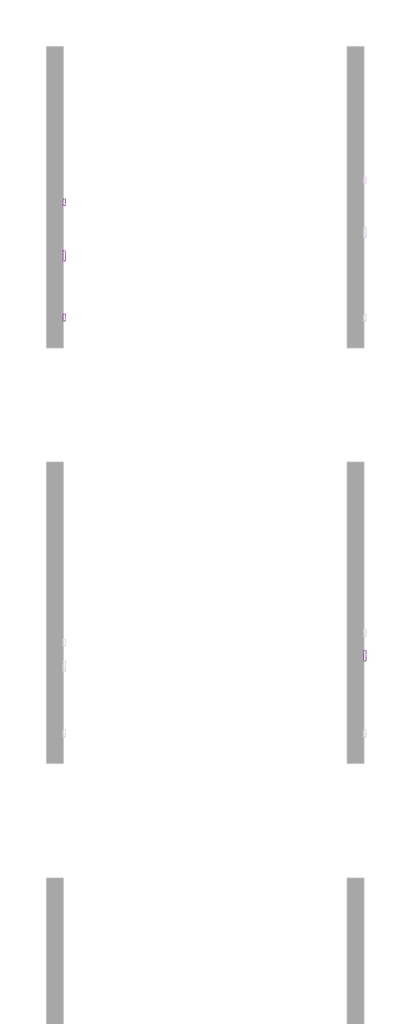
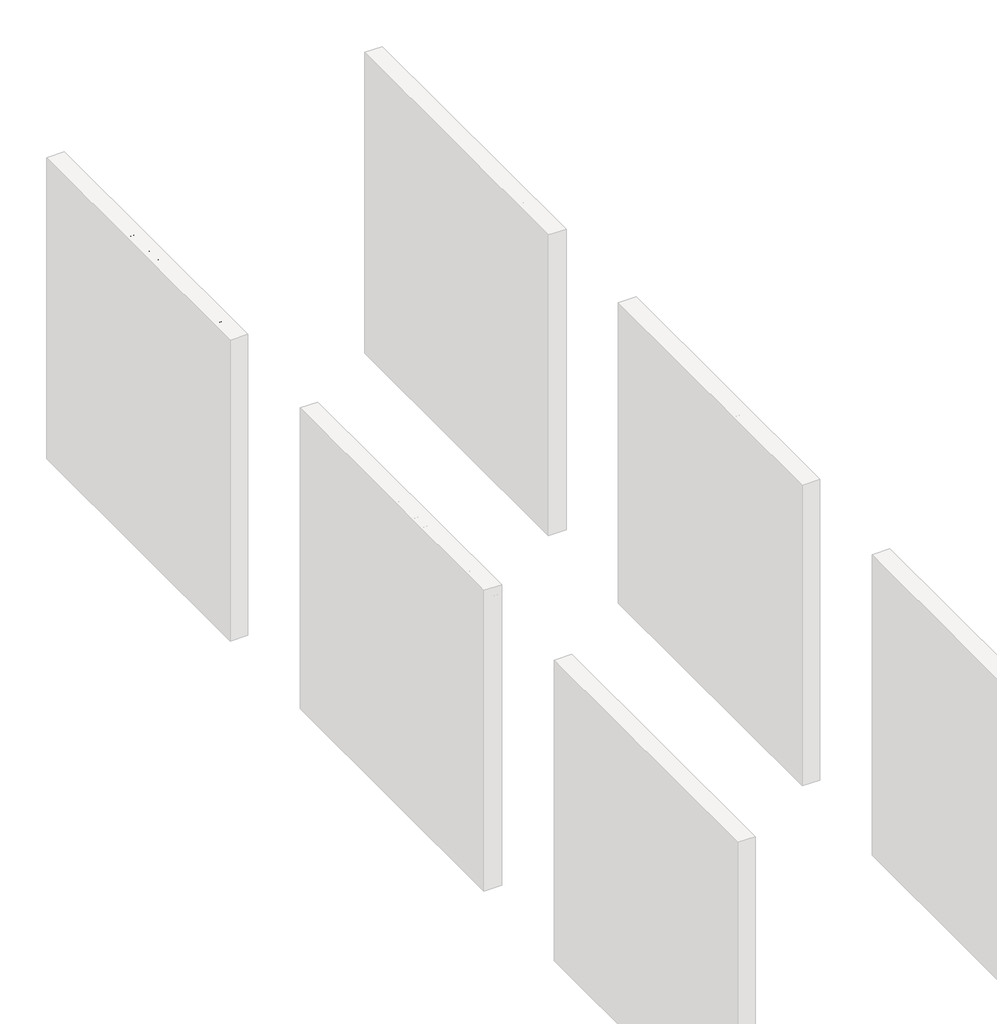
# One storey, part 14 of 17: 4 proxies.
"""IFC4 building model written with IfcOpenShell, lengths in millimetres."""

from ifc_helpers import new_model, si_unit, frame, origin, place, context, project, spatial, polyline, outline, extrude, element, save

model = new_model("IFC4")

# Units and contexts
model_context = context("Model", 3, world=origin())
ifc_project = project(units=[si_unit("LENGTHUNIT", "METRE", prefix="MILLI")], contexts=[model_context])

# Site, building, storey
site = spatial("IfcSite", under=ifc_project)
building = spatial("IfcBuilding", under=site)
storey = spatial("IfcBuildingStorey", under=building, Name="PORTOBELLO - SHOWROOM", Elevation=0.0)

# Proxies
placement = place(None, origin())
element("IfcBuildingElementProxy", 1, Name="10mm Arial", ObjectType="10mm Arial", at=placement, inside=storey, context=model_context, shape_type="SweptSolid", body=[
    extrude(outline(polyline([(9449.7242213, 2518.4745677), (9409.7722366, 2618.9308778), (9423.2121922, 2618.9308778), (9449.969476, 2546.5562266), (9455.389604, 2530.2467915), (9460.7361557, 2546.5562266), (9487.5670159, 2618.9308778), (9500.982446, 2618.9308778), (9462.6736675, 2518.4745677), (9449.7242213, 2518.4745677)])), frame((-7622.2794626, 0.0, 0.0), z_axis=(1.0, 0.0, 0.0), x_axis=(0.0, 1.0, 0.0)), (0.0, 0.0, 1.0), 20.0),
    extrude(outline(polyline([(9558.2003589, 2527.8923467), (9546.0234649, 2519.3820099), (9532.5712466, 2516.9049378), (9522.0774127, 2518.3948599), (9514.3365624, 2522.8646261), (9509.5632935, 2529.6520489), (9507.9722039, 2538.0949407), (9510.3756996, 2548.0277546), (9516.6910072, 2555.2382417), (9525.4833868, 2559.3585201), (9536.3481684, 2561.246981), (9558.1267825, 2565.563463), (9558.2003589, 2568.3593662), (9554.7422682, 2577.6299925), (9540.8608542, 2581.2597615), (9528.1566627, 2578.8440031), (9522.0988725, 2570.2723526), (9509.5418337, 2571.8419824), (9514.9742245, 2584.1047156), (9525.9125825, 2591.2906772), (9542.479535, 2593.8168003), (9557.6975869, 2591.5849828), (9566.2937628, 2585.9809138), (9570.144261, 2577.4583142), (9570.7573977, 2566.4709053), (9570.7573977, 2550.8481832), (9571.3950598, 2529.0327809), (9573.8966574, 2518.4745677), (9561.3396186, 2518.4745677), (9558.2003589, 2527.8923467)]), holes=[polyline([(9558.2003589, 2553.0064243), (9537.9423237, 2549.1559261), (9527.1388558, 2547.1203124), (9522.2460253, 2543.8093744), (9520.5292426, 2538.9778575), (9524.2693763, 2532.1843033), (9535.2445224, 2529.4619766), (9547.948714, 2532.4663462), (9556.1402198, 2539.738147), (9558.1267825, 2549.4502317), (9558.2003589, 2553.0064243)])]), frame((-7622.2794626, 0.0, 0.0), z_axis=(1.0, 0.0, 0.0), x_axis=(0.0, 1.0, 0.0)), (0.0, 0.0, 1.0), 20.0),
    extrude(outline(polyline([(9588.023326, 2518.4745677), (9588.023326, 2592.2471704), (9600.5803648, 2592.2471704), (9600.5803648, 2581.9464746), (9610.1820849, 2590.8492188), (9623.2909466, 2593.8168003), (9635.1490096, 2591.4255673), (9643.2424135, 2585.1470479), (9647.0070726, 2575.9132098), (9647.6692602, 2563.773104), (9647.6692602, 2518.4745677), (9635.1122214, 2518.4745677), (9635.1122214, 2562.0808468), (9633.6652189, 2573.1908831), (9628.5516592, 2579.0647323), (9619.9309577, 2581.2597615), (9606.3070612, 2576.3301428), (9602.0120389, 2569.1871007), (9600.5803648, 2557.6172119), (9600.5803648, 2518.4745677), (9588.023326, 2518.4745677)])), frame((-7622.2794626, 0.0, 0.0), z_axis=(1.0, 0.0, 0.0), x_axis=(0.0, 1.0, 0.0)), (0.0, 0.0, 1.0), 20.0),
    extrude(outline(polyline([(-7602.2794626, 9677.4922272), (-7602.2794626, 9664.9351885), (-7622.2794626, 9664.9351885), (-7622.2794626, 9677.4922272), (-7602.2794626, 9677.4922272)])), frame((0.0, 0.0, 2606.373839), z_axis=(0.0, 0.0, 1.0), x_axis=(1.0, 0.0, 0.0)), (0.0, 0.0, 1.0), 12.5570388),
    extrude(outline(polyline([(-7602.2794626, 9677.4922272), (-7602.2794626, 9664.9351885), (-7622.2794626, 9664.9351885), (-7622.2794626, 9677.4922272), (-7602.2794626, 9677.4922272)])), frame((0.0, 0.0, 2518.4745677), z_axis=(0.0, 0.0, 1.0), x_axis=(1.0, 0.0, 0.0)), (0.0, 0.0, 1.0), 73.7726028),
    extrude(outline(polyline([(-7602.2794626, 9708.8848242), (-7602.2794626, 9696.3277854), (-7622.2794626, 9696.3277854), (-7622.2794626, 9708.8848242), (-7602.2794626, 9708.8848242)])), frame((0.0, 0.0, 2518.4745677), z_axis=(0.0, 0.0, 1.0), x_axis=(1.0, 0.0, 0.0)), (0.0, 0.0, 1.0), 100.4563101),
    extrude(outline(polyline([(-7602.2794626, 9740.2774211), (-7602.2794626, 9727.7203823), (-7622.2794626, 9727.7203823), (-7622.2794626, 9740.2774211), (-7602.2794626, 9740.2774211)])), frame((0.0, 0.0, 2518.4745677), z_axis=(0.0, 0.0, 1.0), x_axis=(1.0, 0.0, 0.0)), (0.0, 0.0, 1.0), 100.4563101),
    extrude(outline(polyline([(9806.2018746, 2527.8923467), (9794.0249806, 2519.3820099), (9780.5727623, 2516.9049378), (9770.0789284, 2518.3948599), (9762.3380781, 2522.8646261), (9757.5648092, 2529.6520489), (9755.9737195, 2538.0949407), (9758.3772152, 2548.0277546), (9764.6925228, 2555.2382417), (9773.4849025, 2559.3585201), (9784.3496841, 2561.246981), (9806.1282982, 2565.563463), (9806.2018746, 2568.3593662), (9802.7437839, 2577.6299925), (9788.8623699, 2581.2597615), (9776.1581783, 2578.8440031), (9770.1003882, 2570.2723526), (9757.5433494, 2571.8419824), (9762.9757402, 2584.1047156), (9773.9140982, 2591.2906772), (9790.4810507, 2593.8168003), (9805.6991026, 2591.5849828), (9814.2952785, 2585.9809138), (9818.1457767, 2577.4583142), (9818.7589134, 2566.4709053), (9818.7589134, 2550.8481832), (9819.3965755, 2529.0327809), (9821.8981731, 2518.4745677), (9809.3411343, 2518.4745677), (9806.2018746, 2527.8923467)]), holes=[polyline([(9806.2018746, 2553.0064243), (9785.9438394, 2549.1559261), (9775.1403715, 2547.1203124), (9770.247541, 2543.8093744), (9768.5307583, 2538.9778575), (9772.2708919, 2532.1843033), (9783.2460381, 2529.4619766), (9795.9502297, 2532.4663462), (9804.1417354, 2539.738147), (9806.1282982, 2549.4502317), (9806.2018746, 2553.0064243)])]), frame((-7622.2794626, 0.0, 0.0), z_axis=(1.0, 0.0, 0.0), x_axis=(0.0, 1.0, 0.0)), (0.0, 0.0, 1.0), 20.0),
    extrude(outline(polyline([(9872.1263282, 2553.0064243), (9884.6833669, 2553.0064243), (9888.7300689, 2540.4371228), (9898.6138318, 2532.4908717), (9913.6724681, 2529.4619766), (9926.7935926, 2531.7551077), (9935.2671413, 2538.0581525), (9938.0507817, 2546.4826502), (9935.9661171, 2554.3185367), (9927.4312548, 2560.0207077), (9909.1475196, 2564.8154363), (9889.4658329, 2571.0081166), (9878.7849923, 2580.3523193), (9875.2655878, 2592.8357816), (9879.6188581, 2607.0482894), (9892.3353124, 2617.0792051), (9910.9501414, 2620.5005077), (9930.8157691, 2616.9197896), (9944.0595209, 2606.3983645), (9949.0381906, 2590.6775406), (9936.4811518, 2590.6775406), (9934.175758, 2598.1700706), (9929.3687666, 2603.5779359), (9911.4406507, 2607.9434689), (9893.4634839, 2603.6269868), (9887.8226266, 2593.2036636), (9891.8202776, 2584.4971231), (9912.3235675, 2577.4828397), (9934.54364, 2571.1797948), (9946.6960086, 2561.0017263), (9950.6078205, 2546.8014813), (9946.1073974, 2531.7796332), (9933.1579512, 2520.8167497), (9914.1629775, 2516.9049378), (9891.7344385, 2521.123318), (9877.5464562, 2533.8275096), (9872.1263282, 2553.0064243)])), frame((-7622.2794626, 0.0, 0.0), z_axis=(1.0, 0.0, 0.0), x_axis=(0.0, 1.0, 0.0)), (0.0, 0.0, 1.0), 20.0),
    extrude(outline(polyline([(10014.9626442, 2518.4745677), (10014.9626442, 2531.1542338), (10005.1279321, 2520.4672618), (9992.3011132, 2516.9049378), (9980.4921012, 2519.4065354), (9972.3496464, 2525.6850548), (9968.6095128, 2534.9311556), (9967.8737488, 2546.6052776), (9967.8737488, 2592.2471704), (9980.4307875, 2592.2471704), (9980.4307875, 2552.515915), (9981.191077, 2539.7136215), (9986.1574839, 2532.1965661), (9995.5139493, 2529.4619766), (10005.9985862, 2532.2578797), (10012.9270304, 2539.873037), (10014.9626442, 2553.8648156), (10014.9626442, 2592.2471704), (10027.5196829, 2592.2471704), (10027.5196829, 2518.4745677), (10014.9626442, 2518.4745677)])), frame((-7622.2794626, 0.0, 0.0), z_axis=(1.0, 0.0, 0.0), x_axis=(0.0, 1.0, 0.0)), (0.0, 0.0, 1.0), 20.0),
    extrude(outline(polyline([(10044.7856112, 2490.2212304), (10044.7856112, 2592.2471704), (10057.34265, 2592.2471704), (10057.34265, 2579.9353863), (10066.0246651, 2590.3464468), (10077.747838, 2593.8168003), (10093.6648657, 2588.9607579), (10104.0636634, 2575.2755477), (10107.5708051, 2555.9249548), (10103.6099423, 2535.5810804), (10092.1074985, 2521.724192), (10076.2272591, 2516.9049378), (10065.3011638, 2520.1300366), (10057.34265, 2528.2847542), (10057.34265, 2490.2212304), (10044.7856112, 2490.2212304)]), holes=[polyline([(10057.34265, 2554.7722579), (10058.7007477, 2543.5150688), (10062.7750408, 2535.6423941), (10068.7868457, 2531.007081), (10075.957479, 2529.4619766), (10083.2446081, 2531.0622633), (10089.4096972, 2535.8631233), (10093.612749, 2544.0239722), (10095.0137663, 2555.7042256), (10093.6464716, 2566.900101), (10089.5445873, 2574.8831403), (10083.5419794, 2579.6656062), (10076.4725137, 2581.2597615), (10069.3754569, 2579.5644386), (10063.1429228, 2574.4784701), (10058.7927182, 2566.1612713), (10057.34265, 2554.7722579)])]), frame((-7622.2794626, 0.0, 0.0), z_axis=(1.0, 0.0, 0.0), x_axis=(0.0, 1.0, 0.0)), (0.0, 0.0, 1.0), 20.0),
    extrude(outline(polyline([(10121.6974737, 2518.4745677), (10121.6974737, 2592.2471704), (10132.6848826, 2592.2471704), (10132.6848826, 2581.3333379), (10140.4839809, 2591.3887791), (10148.3321301, 2593.8168003), (10160.9382198, 2589.9417766), (10156.7443651, 2578.6845875), (10147.9151972, 2581.2597615), (10140.8150747, 2578.7826894), (10136.2901262, 2571.9155588), (10134.2545125, 2557.24933), (10134.2545125, 2518.4745677), (10121.6974737, 2518.4745677)])), frame((-7622.2794626, 0.0, 0.0), z_axis=(1.0, 0.0, 0.0), x_axis=(0.0, 1.0, 0.0)), (0.0, 0.0, 1.0), 20.0),
    extrude(outline(polyline([(10220.4370012, 2540.4493855), (10232.7487853, 2538.8797557), (10228.3127416, 2529.602998), (10221.2340788, 2522.6684224), (10211.6722127, 2518.345809), (10199.7865585, 2516.9049378), (10185.0528846, 2519.391207), (10173.7159878, 2526.8500144), (10166.4871066, 2538.7969822), (10164.0774795, 2554.7477324), (10166.5116321, 2571.2349771), (10173.8140897, 2583.5651553), (10184.9977023, 2591.253889), (10199.07532, 2593.8168003), (10212.714545, 2591.2600204), (10223.6130491, 2583.5896808), (10230.7591568, 2571.2840281), (10233.1411928, 2554.8213088), (10233.0676164, 2551.4367944), (10176.6345183, 2551.4367944), (10178.8080878, 2542.0374095), (10183.8572681, 2535.1273593), (10191.1443973, 2530.8783223), (10200.0318132, 2529.4619766), (10212.3435973, 2532.0862015), (10220.4370012, 2540.4493855)]), holes=[polyline([(10176.6345183, 2563.9938332), (10220.584154, 2563.9938332), (10215.5564334, 2575.3736496), (10208.2355817, 2579.7882335), (10199.0262691, 2581.2597615), (10183.5629625, 2576.5631347), (10178.6977232, 2571.0724959), (10176.6345183, 2563.9938332)])]), frame((-7622.2794626, 0.0, 0.0), z_axis=(1.0, 0.0, 0.0), x_axis=(0.0, 1.0, 0.0)), (0.0, 0.0, 1.0), 20.0),
    extrude(outline(polyline([(10245.6982315, 2518.4745677), (10245.6982315, 2592.2471704), (10258.2552703, 2592.2471704), (10258.2552703, 2580.1070646), (10266.8882344, 2590.0521412), (10279.1754931, 2593.8168003), (10291.7570573, 2589.9785648), (10298.6732388, 2579.2241478), (10308.4711626, 2590.1686372), (10320.8442604, 2593.8168003), (10330.2834993, 2592.299287), (10337.2640601, 2587.7467474), (10341.5774765, 2580.0365539), (10343.015282, 2569.0460793), (10343.015282, 2518.4745677), (10330.4582432, 2518.4745677), (10330.4582432, 2563.6504767), (10329.2932836, 2574.1351135), (10325.0749034, 2579.2977242), (10317.9012044, 2581.2597615), (10305.5526321, 2576.2320409), (10301.8646151, 2569.6898728), (10300.6352761, 2560.1188095), (10300.6352761, 2518.4745677), (10288.0782374, 2518.4745677), (10288.0782374, 2565.0484283), (10285.1719696, 2577.2130596), (10275.6438259, 2581.2597615), (10266.3486742, 2578.5619602), (10260.1682567, 2570.66476), (10258.2552703, 2555.6797001), (10258.2552703, 2518.4745677), (10245.6982315, 2518.4745677)])), frame((-7622.2794626, 0.0, 0.0), z_axis=(1.0, 0.0, 0.0), x_axis=(0.0, 1.0, 0.0)), (0.0, 0.0, 1.0), 20.0),
    extrude(outline(polyline([(10413.5014723, 2540.4493855), (10425.8132564, 2538.8797557), (10421.3772126, 2529.602998), (10414.2985499, 2522.6684224), (10404.7366837, 2518.345809), (10392.8510296, 2516.9049378), (10378.1173557, 2519.391207), (10366.7804589, 2526.8500144), (10359.5515777, 2538.7969822), (10357.1419506, 2554.7477324), (10359.5761031, 2571.2349771), (10366.8785607, 2583.5651553), (10378.0621734, 2591.253889), (10392.1397911, 2593.8168003), (10405.779016, 2591.2600204), (10416.6775202, 2583.5896808), (10423.8236279, 2571.2840281), (10426.2056638, 2554.8213088), (10426.1320874, 2551.4367944), (10369.6989894, 2551.4367944), (10371.8725588, 2542.0374095), (10376.9217392, 2535.1273593), (10384.2088684, 2530.8783223), (10393.0962843, 2529.4619766), (10405.4080684, 2532.0862015), (10413.5014723, 2540.4493855)]), holes=[polyline([(10369.6989894, 2563.9938332), (10413.6486251, 2563.9938332), (10408.6209045, 2575.3736496), (10401.3000528, 2579.7882335), (10392.0907401, 2581.2597615), (10376.6274336, 2576.5631347), (10371.7621942, 2571.0724959), (10369.6989894, 2563.9938332)])]), frame((-7622.2794626, 0.0, 0.0), z_axis=(1.0, 0.0, 0.0), x_axis=(0.0, 1.0, 0.0)), (0.0, 0.0, 1.0), 20.0),
])
element("IfcBuildingElementProxy", 2, Name="10mm Arial", ObjectType="10mm Arial", at=placement, inside=storey, context=model_context, shape_type="SweptSolid", body=[
    extrude(outline(polyline([(13220.7062756, 2554.1836467), (13233.2633143, 2550.9462851), (13227.4691729, 2536.3137787), (13218.3763563, 2525.6237411), (13206.4324541, 2519.0846386), (13192.0850563, 2516.9049378), (13177.519995, 2518.5542754), (13165.9531719, 2523.5022883), (13157.0872159, 2531.5772981), (13150.6247555, 2542.6076265), (13145.3640429, 2569.4630122), (13146.8508993, 2584.110847), (13151.3114685, 2596.7598562), (13158.5127586, 2607.0084355), (13168.2217776, 2614.4549802), (13179.736484, 2618.9891258), (13192.3548365, 2620.5005077), (13206.1228201, 2618.5446017), (13217.5057022, 2612.6768839), (13226.1478634, 2603.2591048), (13231.6936845, 2590.6530151), (13219.1366457, 2587.6609082), (13208.8359498, 2603.0996893), (13191.8643271, 2607.9434689), (13172.2194286, 2602.5723918), (13161.1216551, 2588.1514175), (13157.9210817, 2569.4875377), (13161.7102663, 2547.8560763), (13173.5070156, 2534.0359761), (13190.8342575, 2529.4619766), (13201.3158287, 2531.0193437), (13210.0499604, 2535.691445), (13216.6442452, 2543.4292297), (13220.7062756, 2554.1836467)])), frame((-10322.2794626, 0.0, 0.0), z_axis=(1.0, 0.0, 0.0), x_axis=(0.0, 1.0, 0.0)), (0.0, 0.0, 1.0), 20.0),
    extrude(outline(polyline([(-10302.2794626, 13261.5166516), (-10302.2794626, 13248.9596128), (-10322.2794626, 13248.9596128), (-10322.2794626, 13261.5166516), (-10302.2794626, 13261.5166516)])), frame((0.0, 0.0, 2518.4745677), z_axis=(0.0, 0.0, 1.0), x_axis=(1.0, 0.0, 0.0)), (0.0, 0.0, 1.0), 100.4563101),
    extrude(outline(polyline([(13327.4411051, 2527.8923467), (13315.2642111, 2519.3820099), (13301.8119928, 2516.9049378), (13291.3181588, 2518.3948599), (13283.5773085, 2522.8646261), (13278.8040396, 2529.6520489), (13277.21295, 2538.0949407), (13279.6164457, 2548.0277546), (13285.9317533, 2555.2382417), (13294.724133, 2559.3585201), (13305.5889146, 2561.246981), (13327.3675287, 2565.563463), (13327.4411051, 2568.3593662), (13323.9830143, 2577.6299925), (13310.1016004, 2581.2597615), (13297.3974088, 2578.8440031), (13291.3396186, 2570.2723526), (13278.7825799, 2571.8419824), (13284.2149707, 2584.1047156), (13295.1533286, 2591.2906772), (13311.7202812, 2593.8168003), (13326.938333, 2591.5849828), (13335.534509, 2585.9809138), (13339.3850072, 2577.4583142), (13339.9981439, 2566.4709053), (13339.9981439, 2550.8481832), (13340.635806, 2529.0327809), (13343.1374036, 2518.4745677), (13330.5803648, 2518.4745677), (13327.4411051, 2527.8923467)]), holes=[polyline([(13327.4411051, 2553.0064243), (13307.1830699, 2549.1559261), (13296.379602, 2547.1203124), (13291.4867714, 2543.8093744), (13289.7699888, 2538.9778575), (13293.5101224, 2532.1843033), (13304.4852686, 2529.4619766), (13317.1894602, 2532.4663462), (13325.3809659, 2539.738147), (13327.3675287, 2549.4502317), (13327.4411051, 2553.0064243)])]), frame((-10322.2794626, 0.0, 0.0), z_axis=(1.0, 0.0, 0.0), x_axis=(0.0, 1.0, 0.0)), (0.0, 0.0, 1.0), 20.0),
    extrude(outline(polyline([(13357.2640722, 2490.2212304), (13355.6944423, 2502.3122853), (13362.0710636, 2501.2086394), (13368.0307519, 2502.5943282), (13371.6850464, 2506.4570892), (13375.1186117, 2515.70319), (13376.0996303, 2518.7443478), (13349.4159229, 2592.2471704), (13362.6351493, 2592.2471704), (13376.8108688, 2551.2651162), (13381.7404876, 2534.8821046), (13386.6701063, 2549.3766553), (13401.2137079, 2592.2471704), (13414.3348324, 2592.2471704), (13388.6566691, 2516.7087341), (13381.9857422, 2500.3257226), (13374.7016787, 2491.4720292), (13364.9405431, 2488.6516006), (13357.2640722, 2490.2212304)])), frame((-10322.2794626, 0.0, 0.0), z_axis=(1.0, 0.0, 0.0), x_axis=(0.0, 1.0, 0.0)), (0.0, 0.0, 1.0), 20.0),
    extrude(outline(polyline([(13460.859642, 2553.0064243), (13473.4166808, 2553.0064243), (13477.4633827, 2540.4371228), (13487.3471457, 2532.4908717), (13502.405782, 2529.4619766), (13515.5269065, 2531.7551077), (13524.0004551, 2538.0581525), (13526.7840955, 2546.4826502), (13524.6994309, 2554.3185367), (13516.1645686, 2560.0207077), (13497.8808335, 2564.8154363), (13478.1991467, 2571.0081166), (13467.5183061, 2580.3523193), (13463.9989017, 2592.8357816), (13468.352172, 2607.0482894), (13481.0686263, 2617.0792051), (13499.6834552, 2620.5005077), (13519.549083, 2616.9197896), (13532.7928348, 2606.3983645), (13537.7715045, 2590.6775406), (13525.2144657, 2590.6775406), (13522.9090719, 2598.1700706), (13518.1020805, 2603.5779359), (13500.1739646, 2607.9434689), (13482.1967977, 2603.6269868), (13476.5559405, 2593.2036636), (13480.5535915, 2584.4971231), (13501.0568813, 2577.4828397), (13523.2769539, 2571.1797948), (13535.4293224, 2561.0017263), (13539.3411343, 2546.8014813), (13534.8407112, 2531.7796332), (13521.891265, 2520.8167497), (13502.8962913, 2516.9049378), (13480.4677524, 2521.123318), (13466.2797701, 2533.8275096), (13460.859642, 2553.0064243)])), frame((-10322.2794626, 0.0, 0.0), z_axis=(1.0, 0.0, 0.0), x_axis=(0.0, 1.0, 0.0)), (0.0, 0.0, 1.0), 20.0),
    extrude(outline(polyline([(13603.695958, 2518.4745677), (13603.695958, 2531.1542338), (13593.861246, 2520.4672618), (13581.0344271, 2516.9049378), (13569.2254151, 2519.4065354), (13561.0829602, 2525.6850548), (13557.3428266, 2534.9311556), (13556.6070626, 2546.6052776), (13556.6070626, 2592.2471704), (13569.1641014, 2592.2471704), (13569.1641014, 2552.515915), (13569.9243908, 2539.7136215), (13574.8907978, 2532.1965661), (13584.2472632, 2529.4619766), (13594.7319001, 2532.2578797), (13601.6603443, 2539.873037), (13603.695958, 2553.8648156), (13603.695958, 2592.2471704), (13616.2529968, 2592.2471704), (13616.2529968, 2518.4745677), (13603.695958, 2518.4745677)])), frame((-10322.2794626, 0.0, 0.0), z_axis=(1.0, 0.0, 0.0), x_axis=(0.0, 1.0, 0.0)), (0.0, 0.0, 1.0), 20.0),
    extrude(outline(polyline([(13633.5189251, 2490.2212304), (13633.5189251, 2592.2471704), (13646.0759638, 2592.2471704), (13646.0759638, 2579.9353863), (13654.7579789, 2590.3464468), (13666.4811518, 2593.8168003), (13682.3981795, 2588.9607579), (13692.7969772, 2575.2755477), (13696.3041189, 2555.9249548), (13692.3432561, 2535.5810804), (13680.8408124, 2521.724192), (13664.9605729, 2516.9049378), (13654.0344777, 2520.1300366), (13646.0759638, 2528.2847542), (13646.0759638, 2490.2212304), (13633.5189251, 2490.2212304)]), holes=[polyline([(13646.0759638, 2554.7722579), (13647.4340615, 2543.5150688), (13651.5083546, 2535.6423941), (13657.5201596, 2531.007081), (13664.6907928, 2529.4619766), (13671.977922, 2531.0622633), (13678.1430111, 2535.8631233), (13682.3460629, 2544.0239722), (13683.7470802, 2555.7042256), (13682.3797854, 2566.900101), (13678.2779012, 2574.8831403), (13672.2752933, 2579.6656062), (13665.2058276, 2581.2597615), (13658.1087708, 2579.5644386), (13651.8762366, 2574.4784701), (13647.526032, 2566.1612713), (13646.0759638, 2554.7722579)])]), frame((-10322.2794626, 0.0, 0.0), z_axis=(1.0, 0.0, 0.0), x_axis=(0.0, 1.0, 0.0)), (0.0, 0.0, 1.0), 20.0),
    extrude(outline(polyline([(13710.4307875, 2518.4745677), (13710.4307875, 2592.2471704), (13721.4181965, 2592.2471704), (13721.4181965, 2581.3333379), (13729.2172948, 2591.3887791), (13737.065444, 2593.8168003), (13749.6715337, 2589.9417766), (13745.4776789, 2578.6845875), (13736.6485111, 2581.2597615), (13729.5483886, 2578.7826894), (13725.02344, 2571.9155588), (13722.9878263, 2557.24933), (13722.9878263, 2518.4745677), (13710.4307875, 2518.4745677)])), frame((-10322.2794626, 0.0, 0.0), z_axis=(1.0, 0.0, 0.0), x_axis=(0.0, 1.0, 0.0)), (0.0, 0.0, 1.0), 20.0),
    extrude(outline(polyline([(13809.170315, 2540.4493855), (13821.4820991, 2538.8797557), (13817.0460554, 2529.602998), (13809.9673927, 2522.6684224), (13800.4055265, 2518.345809), (13788.5198724, 2516.9049378), (13773.7861985, 2519.391207), (13762.4493017, 2526.8500144), (13755.2204204, 2538.7969822), (13752.8107934, 2554.7477324), (13755.2449459, 2571.2349771), (13762.5474035, 2583.5651553), (13773.7310162, 2591.253889), (13787.8086339, 2593.8168003), (13801.4478588, 2591.2600204), (13812.3463629, 2583.5896808), (13819.4924707, 2571.2840281), (13821.8745066, 2554.8213088), (13821.8009302, 2551.4367944), (13765.3678322, 2551.4367944), (13767.5414016, 2542.0374095), (13772.590582, 2535.1273593), (13779.8777112, 2530.8783223), (13788.765127, 2529.4619766), (13801.0769111, 2532.0862015), (13809.170315, 2540.4493855)]), holes=[polyline([(13765.3678322, 2563.9938332), (13809.3174678, 2563.9938332), (13804.2897472, 2575.3736496), (13796.9688955, 2579.7882335), (13787.7595829, 2581.2597615), (13772.2962764, 2576.5631347), (13767.431037, 2571.0724959), (13765.3678322, 2563.9938332)])]), frame((-10322.2794626, 0.0, 0.0), z_axis=(1.0, 0.0, 0.0), x_axis=(0.0, 1.0, 0.0)), (0.0, 0.0, 1.0), 20.0),
    extrude(outline(polyline([(13834.4315454, 2518.4745677), (13834.4315454, 2592.2471704), (13846.9885841, 2592.2471704), (13846.9885841, 2580.1070646), (13855.6215483, 2590.0521412), (13867.9088069, 2593.8168003), (13880.4903712, 2589.9785648), (13887.4065527, 2579.2241478), (13897.2044765, 2590.1686372), (13909.5775743, 2593.8168003), (13919.0168131, 2592.299287), (13925.997374, 2587.7467474), (13930.3107904, 2580.0365539), (13931.7485958, 2569.0460793), (13931.7485958, 2518.4745677), (13919.1915571, 2518.4745677), (13919.1915571, 2563.6504767), (13918.0265974, 2574.1351135), (13913.8082172, 2579.2977242), (13906.6345183, 2581.2597615), (13894.285946, 2576.2320409), (13890.597929, 2569.6898728), (13889.36859, 2560.1188095), (13889.36859, 2518.4745677), (13876.8115512, 2518.4745677), (13876.8115512, 2565.0484283), (13873.9052835, 2577.2130596), (13864.3771398, 2581.2597615), (13855.081988, 2578.5619602), (13848.9015705, 2570.66476), (13846.9885841, 2555.6797001), (13846.9885841, 2518.4745677), (13834.4315454, 2518.4745677)])), frame((-10322.2794626, 0.0, 0.0), z_axis=(1.0, 0.0, 0.0), x_axis=(0.0, 1.0, 0.0)), (0.0, 0.0, 1.0), 20.0),
    extrude(outline(polyline([(14002.2347861, 2540.4493855), (14014.5465702, 2538.8797557), (14010.1105265, 2529.602998), (14003.0318638, 2522.6684224), (13993.4699976, 2518.345809), (13981.5843434, 2516.9049378), (13966.8506695, 2519.391207), (13955.5137727, 2526.8500144), (13948.2848915, 2538.7969822), (13945.8752645, 2554.7477324), (13948.309417, 2571.2349771), (13955.6118746, 2583.5651553), (13966.7954872, 2591.253889), (13980.8731049, 2593.8168003), (13994.5123299, 2591.2600204), (14005.410834, 2583.5896808), (14012.5569418, 2571.2840281), (14014.9389777, 2554.8213088), (14014.8654013, 2551.4367944), (13958.4323032, 2551.4367944), (13960.6058727, 2542.0374095), (13965.6550531, 2535.1273593), (13972.9421822, 2530.8783223), (13981.8295981, 2529.4619766), (13994.1413822, 2532.0862015), (14002.2347861, 2540.4493855)]), holes=[polyline([(13958.4323032, 2563.9938332), (14002.3819389, 2563.9938332), (13997.3542183, 2575.3736496), (13990.0333666, 2579.7882335), (13980.824054, 2581.2597615), (13965.3607475, 2576.5631347), (13960.4955081, 2571.0724959), (13958.4323032, 2563.9938332)])]), frame((-10322.2794626, 0.0, 0.0), z_axis=(1.0, 0.0, 0.0), x_axis=(0.0, 1.0, 0.0)), (0.0, 0.0, 1.0), 20.0),
    extrude(outline(polyline([(14068.3063924, 2518.4745677), (14068.3063924, 2618.9308778), (14089.8397519, 2618.9308778), (14110.4411436, 2548.1258565), (14114.6104729, 2533.3370003), (14119.0986332, 2549.3521298), (14139.3076175, 2618.9308778), (14160.9145534, 2618.9308778), (14160.9145534, 2518.4745677), (14148.3575146, 2518.4745677), (14148.3575146, 2606.373839), (14123.1208097, 2518.4745677), (14106.1246615, 2518.4745677), (14080.8634312, 2606.373839), (14080.8634312, 2518.4745677), (14068.3063924, 2518.4745677)])), frame((-10322.2794626, 0.0, 0.0), z_axis=(1.0, 0.0, 0.0), x_axis=(0.0, 1.0, 0.0)), (0.0, 0.0, 1.0), 20.0),
    extrude(outline(polyline([(-10302.2794626, 14193.8767801), (-10302.2794626, 14181.3197414), (-10322.2794626, 14181.3197414), (-10322.2794626, 14193.8767801), (-10302.2794626, 14193.8767801)])), frame((0.0, 0.0, 2606.373839), z_axis=(0.0, 0.0, 1.0), x_axis=(1.0, 0.0, 0.0)), (0.0, 0.0, 1.0), 12.5570388),
    extrude(outline(polyline([(-10302.2794626, 14193.8767801), (-10302.2794626, 14181.3197414), (-10322.2794626, 14181.3197414), (-10322.2794626, 14193.8767801), (-10302.2794626, 14193.8767801)])), frame((0.0, 0.0, 2518.4745677), z_axis=(0.0, 0.0, 1.0), x_axis=(1.0, 0.0, 0.0)), (0.0, 0.0, 1.0), 73.7726028),
    extrude(outline(polyline([(14204.8641891, 2518.4745677), (14231.6950492, 2555.5815982), (14206.4338189, 2592.2471704), (14221.4924552, 2592.2471704), (14233.681612, 2574.5643092), (14239.3960457, 2566.2501761), (14244.3501899, 2573.0682557), (14258.2316038, 2592.2471704), (14273.3392911, 2592.2471704), (14246.8027365, 2555.5570728), (14272.3582724, 2518.4745677), (14257.2751106, 2518.4745677), (14241.8731178, 2540.792742), (14239.0772146, 2544.8884949), (14219.9718763, 2518.4745677), (14204.8641891, 2518.4745677)])), frame((-10322.2794626, 0.0, 0.0), z_axis=(1.0, 0.0, 0.0), x_axis=(0.0, 1.0, 0.0)), (0.0, 0.0, 1.0), 20.0),
])
element("IfcBuildingElementProxy", 3, Name="10mm Arial", ObjectType="10mm Arial", at=placement, inside=storey, context=model_context, shape_type="SweptSolid", body=[
    extrude(outline(polyline([(13192.4529383, 2393.4745677), (13179.8958996, 2393.4745677), (13179.8958996, 2471.7598562), (13168.0010484, 2463.2863076), (13154.781822, 2456.9464746), (13154.781822, 2468.8168003), (13173.1881845, 2480.5644987), (13184.3595344, 2493.9308778), (13192.4529383, 2493.9308778), (13192.4529383, 2393.4745677)])), frame((-10322.2794626, 0.0, 0.0), z_axis=(1.0, 0.0, 0.0), x_axis=(0.0, 1.0, 0.0)), (0.0, 0.0, 1.0), 20.0),
    extrude(outline(polyline([(13222.2759054, 2442.8933823), (13225.9669881, 2471.7966444), (13236.9298715, 2488.4616988), (13255.2381322, 2493.9308778), (13269.904361, 2490.6935163), (13280.0333786, 2481.3615763), (13285.9194906, 2466.4991437), (13288.2003589, 2442.8933823), (13284.5460645, 2414.1127476), (13273.6199692, 2397.410905), (13265.3886096, 2393.2814296), (13255.2381322, 2391.9049378), (13242.1905841, 2394.2961708), (13232.2822957, 2401.4698697), (13224.777503, 2418.4598865), (13222.2759054, 2442.8933823)]), holes=[polyline([(13234.8329442, 2442.9179078), (13236.3044722, 2423.1657104), (13240.7190561, 2411.7337774), (13247.2918811, 2406.2799268), (13255.2381322, 2404.4619766), (13263.1843833, 2406.2860581), (13269.7572082, 2411.7583028), (13274.1717922, 2423.1963672), (13275.6433202, 2442.9179078), (13274.2208431, 2462.2255812), (13269.953412, 2473.746419), (13263.3928497, 2479.466984), (13255.0909794, 2481.373839), (13247.2305674, 2479.6938446), (13240.9152598, 2474.6538613), (13236.3535231, 2462.4156536), (13234.8329442, 2442.9179078)])]), frame((-10322.2794626, 0.0, 0.0), z_axis=(1.0, 0.0, 0.0), x_axis=(0.0, 1.0, 0.0)), (0.0, 0.0, 1.0), 20.0),
    extrude(outline(polyline([(13294.4788783, 2393.4745677), (13321.3097385, 2430.5815982), (13296.0485082, 2467.2471704), (13311.1071445, 2467.2471704), (13323.2963013, 2449.5643092), (13329.0107349, 2441.2501761), (13333.9648791, 2448.0682557), (13347.8462931, 2467.2471704), (13362.9539804, 2467.2471704), (13336.4174258, 2430.5570728), (13361.9729617, 2393.4745677), (13346.8897999, 2393.4745677), (13331.487807, 2415.792742), (13328.6919039, 2419.8884949), (13309.5865656, 2393.4745677), (13294.4788783, 2393.4745677)])), frame((-10322.2794626, 0.0, 0.0), z_axis=(1.0, 0.0, 0.0), x_axis=(0.0, 1.0, 0.0)), (0.0, 0.0, 1.0), 20.0),
    extrude(outline(polyline([(13434.1759346, 2406.0316064), (13434.1759346, 2393.4745677), (13368.2514811, 2393.4745677), (13369.6003817, 2402.1320573), (13377.2400645, 2415.4616482), (13392.9731512, 2430.0175125), (13414.6414007, 2450.9377353), (13420.049266, 2465.1625058), (13414.9357063, 2476.6772122), (13401.5815899, 2481.373839), (13387.6633877, 2476.7875768), (13382.3781497, 2464.1079107), (13369.8211109, 2465.6775406), (13372.8653344, 2477.8237778), (13379.4473565, 2486.6958652), (13389.2238205, 2492.1221247), (13401.85137, 2493.9308778), (13414.57089, 2491.9197896), (13424.3289599, 2485.8865249), (13430.5369686, 2476.873416), (13432.6063048, 2465.9227952), (13430.3744873, 2454.0156813), (13422.9555338, 2441.7038972), (13404.9661042, 2424.4992826), (13390.5206045, 2412.4204904), (13384.8552218, 2406.0316064), (13434.1759346, 2406.0316064)])), frame((-10322.2794626, 0.0, 0.0), z_axis=(1.0, 0.0, 0.0), x_axis=(0.0, 1.0, 0.0)), (0.0, 0.0, 1.0), 20.0),
    extrude(outline(polyline([(13446.7329734, 2442.8933823), (13450.4240561, 2471.7966444), (13461.3869395, 2488.4616988), (13479.6952002, 2493.9308778), (13494.361429, 2490.6935163), (13504.4904466, 2481.3615763), (13510.3765586, 2466.4991437), (13512.6574269, 2442.8933823), (13509.0031324, 2414.1127476), (13498.0770372, 2397.410905), (13489.8456775, 2393.2814296), (13479.6952002, 2391.9049378), (13466.6476521, 2394.2961708), (13456.7393637, 2401.4698697), (13449.234571, 2418.4598865), (13446.7329734, 2442.8933823)]), holes=[polyline([(13459.2900122, 2442.9179078), (13460.7615401, 2423.1657104), (13465.1761241, 2411.7337774), (13471.7489491, 2406.2799268), (13479.6952002, 2404.4619766), (13487.6414513, 2406.2860581), (13494.2142762, 2411.7583028), (13498.6288602, 2423.1963672), (13500.1003882, 2442.9179078), (13498.6779111, 2462.2255812), (13494.41048, 2473.746419), (13487.8499177, 2479.466984), (13479.5480474, 2481.373839), (13471.6876354, 2479.6938446), (13465.3723278, 2474.6538613), (13460.8105911, 2462.4156536), (13459.2900122, 2442.9179078)])]), frame((-10322.2794626, 0.0, 0.0), z_axis=(1.0, 0.0, 0.0), x_axis=(0.0, 1.0, 0.0)), (0.0, 0.0, 1.0), 20.0),
])
element("IfcBuildingElementProxy", 4, Name="10mm Arial Narrow", ObjectType="10mm Arial Narrow", at=placement, inside=storey, context=model_context, shape_type="SweptSolid", body=[
    extrude(outline(polyline([(14331.9785273, 2518.4745677), (14331.9785273, 2615.7916181), (14362.2184273, 2615.7916181), (14377.9637767, 2613.9767336), (14389.0492875, 2604.8164719), (14393.1940913, 2588.3721467), (14391.4681116, 2576.7041561), (14386.2901726, 2567.402873), (14376.8754592, 2561.314426), (14362.4391565, 2559.2849437), (14341.3963064, 2559.2849437), (14341.3963064, 2518.4745677), (14331.9785273, 2518.4745677)]), holes=[polyline([(14341.3963064, 2570.2723526), (14363.5918535, 2570.2723526), (14378.9202699, 2574.6501483), (14383.7763123, 2587.857112), (14381.3850793, 2597.6795612), (14375.609332, 2603.2836303), (14363.3711243, 2604.8042092), (14341.3963064, 2604.8042092), (14341.3963064, 2570.2723526)])]), frame((-10322.2794626, 0.0, 0.0), z_axis=(1.0, 0.0, 0.0), x_axis=(0.0, 1.0, 0.0)), (0.0, 0.0, 1.0), 20.0),
    extrude(outline(polyline([(14401.0422406, 2553.7912392), (14402.9307015, 2569.8216971), (14408.5960842, 2581.3701261), (14417.155472, 2588.350687), (14427.7259479, 2590.6775406), (14438.1737966, 2588.350687), (14446.7577098, 2581.3701261), (14452.496669, 2570.0056381), (14454.4096553, 2554.5270032), (14452.5303915, 2537.9447223), (14446.8925999, 2526.2123523), (14438.3424092, 2519.2317914), (14427.7259479, 2516.9049378), (14417.232114, 2519.2379228), (14408.6573979, 2526.2368778), (14402.9460299, 2537.7914381), (14401.0422406, 2553.7912392)]), holes=[polyline([(14410.4600196, 2553.8157647), (14411.7200155, 2541.6879216), (14415.500003, 2533.1162711), (14421.1439259, 2528.0211054), (14427.9957281, 2526.3227169), (14434.4888453, 2528.0364339), (14439.9886811, 2533.1775847), (14443.7410775, 2541.7645636), (14444.9918763, 2553.8157647), (14443.7318804, 2565.9068196), (14439.9518929, 2574.4662073), (14434.30797, 2579.561373), (14427.4561678, 2581.2597615), (14420.9170654, 2579.5521759), (14415.4264266, 2574.4294191), (14411.7016214, 2565.8608343), (14410.4600196, 2553.8157647)])]), frame((-10322.2794626, 0.0, 0.0), z_axis=(1.0, 0.0, 0.0), x_axis=(0.0, 1.0, 0.0)), (0.0, 0.0, 1.0), 20.0),
    extrude(outline(polyline([(14523.4733686, 2526.3227169), (14525.0429984, 2516.9049378), (14517.9306132, 2516.9049378), (14509.9353111, 2518.9528143), (14505.7659819, 2524.5568833), (14504.6378104, 2538.7080774), (14504.6378104, 2579.6901317), (14496.7896612, 2579.6901317), (14496.7896612, 2582.8293914), (14495.2200313, 2578.1205018), (14487.9114424, 2579.6901317), (14482.0375932, 2577.4460515), (14478.2974596, 2571.1797948), (14476.3844732, 2556.2928368), (14476.3844732, 2518.4745677), (14466.9666941, 2518.4745677), (14466.9666941, 2589.1079107), (14476.3844732, 2589.1079107), (14476.3844732, 2579.7391826), (14482.4177379, 2588.5192995), (14488.5981554, 2590.6775406), (14496.7896612, 2589.1079107), (14504.6378104, 2589.1079107), (14504.6378104, 2604.8042092), (14514.0555895, 2612.6523584), (14514.0555895, 2589.1079107), (14523.4733686, 2589.1079107), (14523.4733686, 2579.6901317), (14514.0555895, 2579.6901317), (14514.0555895, 2536.5498364), (14514.8894553, 2528.8243145), (14519.3530902, 2526.3227169), (14523.4733686, 2526.3227169)])), frame((-10322.2794626, 0.0, 0.0), z_axis=(1.0, 0.0, 0.0), x_axis=(0.0, 1.0, 0.0)), (0.0, 0.0, 1.0), 20.0),
    extrude(outline(polyline([(14529.7518879, 2553.7912392), (14531.6403489, 2569.8216971), (14537.3057316, 2581.3701261), (14545.8651193, 2588.350687), (14556.4355953, 2590.6775406), (14566.883444, 2588.350687), (14575.4673572, 2581.3701261), (14581.2063163, 2570.0056381), (14583.1193027, 2554.5270032), (14581.2400389, 2537.9447223), (14575.6022473, 2526.2123523), (14567.0520566, 2519.2317914), (14556.4355953, 2516.9049378), (14545.9417614, 2519.2379228), (14537.3670452, 2526.2368778), (14531.6556773, 2537.7914381), (14529.7518879, 2553.7912392)]), holes=[polyline([(14539.169667, 2553.8157647), (14540.4296629, 2541.6879216), (14544.2096504, 2533.1162711), (14549.8535733, 2528.0211054), (14556.7053755, 2526.3227169), (14563.1984927, 2528.0364339), (14568.6983285, 2533.1775847), (14572.4507249, 2541.7645636), (14573.7015236, 2553.8157647), (14572.4415278, 2565.9068196), (14568.6615403, 2574.4662073), (14563.0176174, 2579.561373), (14556.1658152, 2581.2597615), (14549.6267127, 2579.5521759), (14544.136074, 2574.4294191), (14540.4112688, 2565.8608343), (14539.169667, 2553.8157647)])]), frame((-10322.2794626, 0.0, 0.0), z_axis=(1.0, 0.0, 0.0), x_axis=(0.0, 1.0, 0.0)), (0.0, 0.0, 1.0), 20.0),
    extrude(outline(polyline([(14605.0941206, 2518.4745677), (14595.6763415, 2518.4745677), (14595.6763415, 2615.7916181), (14605.0941206, 2615.7916181), (14605.0941206, 2581.5785926), (14612.243294, 2588.4211977), (14621.1337755, 2590.6775406), (14633.5804497, 2586.6185759), (14642.5445077, 2574.3190545), (14645.9044966, 2554.3307995), (14644.0374954, 2538.4321659), (14638.4364921, 2526.641548), (14630.3461538, 2519.3390904), (14621.0111482, 2516.9049378), (14611.9857766, 2519.4310609), (14605.0941206, 2526.9358536), (14605.0941206, 2518.4745677)]), holes=[polyline([(14605.0941206, 2554.3307995), (14607.1052088, 2537.6657451), (14612.795117, 2529.2289847), (14620.9620973, 2526.3227169), (14626.7041221, 2528.0517623), (14631.7655652, 2533.2388984), (14636.4867175, 2553.938392), (14631.9372435, 2574.6501483), (14626.869669, 2579.6073582), (14620.7658936, 2581.2597615), (14614.9901462, 2579.5307161), (14609.8765865, 2574.34358), (14605.0941206, 2554.3307995)])]), frame((-10322.2794626, 0.0, 0.0), z_axis=(1.0, 0.0, 0.0), x_axis=(0.0, 1.0, 0.0)), (0.0, 0.0, 1.0), 20.0),
    extrude(outline(polyline([(14696.1326516, 2540.4493855), (14705.5504307, 2538.8797557), (14696.3533808, 2522.4476932), (14679.8722674, 2516.9049378), (14668.6702607, 2519.2379228), (14659.8349614, 2526.2368778), (14654.0960023, 2537.6442853), (14652.1830159, 2553.202628), (14654.1051994, 2569.3066623), (14659.8717496, 2581.0758205), (14668.5813559, 2588.2771106), (14679.3327072, 2590.6775406), (14689.6548628, 2588.359884), (14698.1069517, 2581.4069143), (14703.7447432, 2570.0638861), (14705.6240071, 2554.5760541), (14705.5504307, 2551.4367944), (14661.600795, 2551.4367944), (14667.4010678, 2532.6502872), (14673.1308299, 2527.9046095), (14679.9948948, 2526.3227169), (14689.8296068, 2529.854384), (14696.1326516, 2540.4493855)]), holes=[polyline([(14662.2384571, 2560.8545735), (14696.1326516, 2560.8545735), (14692.0123733, 2574.6378856), (14686.3837788, 2579.6042925), (14679.4062836, 2581.2597615), (14667.6095343, 2575.7415316), (14662.2384571, 2560.8545735)])]), frame((-10322.2794626, 0.0, 0.0), z_axis=(1.0, 0.0, 0.0), x_axis=(0.0, 1.0, 0.0)), (0.0, 0.0, 1.0), 20.0),
    extrude(outline(polyline([(-10302.2794626, 14727.5252486), (-10302.2794626, 14718.1074695), (-10322.2794626, 14718.1074695), (-10322.2794626, 14727.5252486), (-10302.2794626, 14727.5252486)])), frame((0.0, 0.0, 2518.4745677), z_axis=(0.0, 0.0, 1.0), x_axis=(1.0, 0.0, 0.0)), (0.0, 0.0, 1.0), 97.3170505),
    extrude(outline(polyline([(-10302.2794626, 14752.6393261), (-10302.2794626, 14743.221547), (-10322.2794626, 14743.221547), (-10322.2794626, 14752.6393261), (-10302.2794626, 14752.6393261)])), frame((0.0, 0.0, 2518.4745677), z_axis=(0.0, 0.0, 1.0), x_axis=(1.0, 0.0, 0.0)), (0.0, 0.0, 1.0), 97.3170505),
    extrude(outline(polyline([(14763.626735, 2553.7912392), (14765.5151959, 2569.8216971), (14771.1805786, 2581.3701261), (14779.7399664, 2588.350687), (14790.3104424, 2590.6775406), (14800.7582911, 2588.350687), (14809.3422043, 2581.3701261), (14815.0811634, 2570.0056381), (14816.9941498, 2554.5270032), (14815.1148859, 2537.9447223), (14809.4770943, 2526.2123523), (14800.9269036, 2519.2317914), (14790.3104424, 2516.9049378), (14779.8166085, 2519.2379228), (14771.2418923, 2526.2368778), (14765.5305243, 2537.7914381), (14763.626735, 2553.7912392)]), holes=[polyline([(14773.0445141, 2553.8157647), (14774.3045099, 2541.6879216), (14778.0844974, 2533.1162711), (14783.7284204, 2528.0211054), (14790.5802225, 2526.3227169), (14797.0733397, 2528.0364339), (14802.5731756, 2533.1775847), (14806.3255719, 2541.7645636), (14807.5763707, 2553.8157647), (14806.3163749, 2565.9068196), (14802.5363874, 2574.4662073), (14796.8924644, 2579.561373), (14790.0406623, 2581.2597615), (14783.5015598, 2579.5521759), (14778.010921, 2574.4294191), (14774.2861158, 2565.8608343), (14773.0445141, 2553.8157647)])]), frame((-10322.2794626, 0.0, 0.0), z_axis=(1.0, 0.0, 0.0), x_axis=(0.0, 1.0, 0.0)), (0.0, 0.0, 1.0), 20.0),
])

save(model, "model.ifc")
